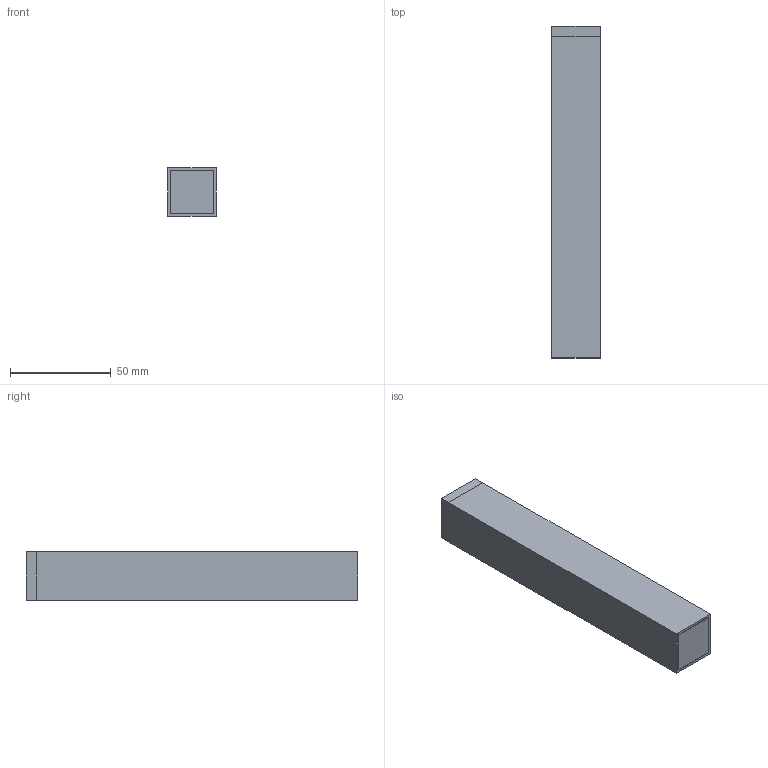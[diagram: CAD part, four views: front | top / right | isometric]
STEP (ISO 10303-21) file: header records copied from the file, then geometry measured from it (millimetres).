
FILE_DESCRIPTION(/* description */ (''),/* implementation_level */ '2;1');
FILE_NAME(/* name */ 'BM02-S2424-165L-N.step',/* time_stamp */ '2025-10-10T15:34:30+09:00',/* author */ (''),/* organization */ (''),/* preprocessor_version */ 'ST-DEVELOPER v20.1',/* originating_system */ 'Autodesk Translation Framework v14.17.0.0',/* authorisation */ '');
FILE_SCHEMA (('AUTOMOTIVE_DESIGN { 1 0 10303 214 3 1 1 }'));
Length unit declared in the file: millimetre
Products named in the file (4): BM02-S2424-165L-N; Component1; Component2; Component3
Assembly tree (3 placements, depth 2):
  BM02-S2424-165L-N
    Component1
    Component2
    Component3
Bounding box: 24 x 165 x 24 mm (x, y, z)
Volume: 84805.2 mm3; surface area: 45710.2 mm2
Topology: 4 solids, 4 shells, 39 faces, 85 edges, 55 vertices
Faces by surface type: plane 37, cone 1, cylinder 1
Full cylindrical faces by diameter (mm): 4.234 x1
Entity records: 1172 total; most frequent: CARTESIAN_POINT 185, DIRECTION 178, ORIENTED_EDGE 168, EDGE_CURVE 84, LINE 82, VECTOR 82, VERTEX_POINT 55, AXIS2_PLACEMENT_3D 48
